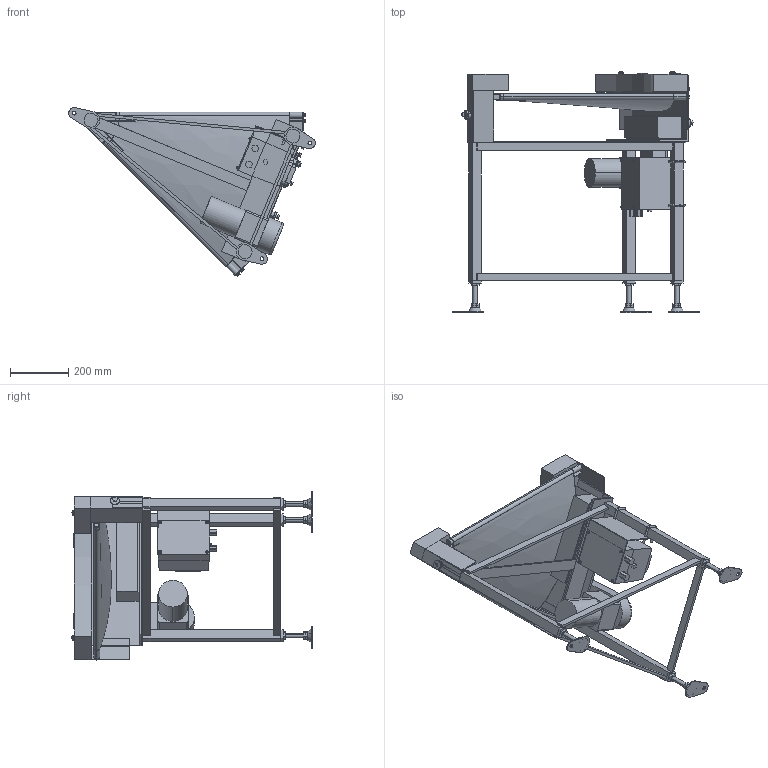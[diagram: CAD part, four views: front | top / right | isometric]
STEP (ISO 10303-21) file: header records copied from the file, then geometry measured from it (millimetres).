
FILE_DESCRIPTION (( 'STEP AP214' ), '1' );
FILE_NAME ('GFBC45-UD500-L.STEP', '2024-01-18T01:52:15', ( '' ), ( '' ), 'SwSTEP 2.0', 'SolidWorks 2017', '' );
FILE_SCHEMA (( 'AUTOMOTIVE_DESIGN' ));
Length unit declared in the file: millimetre
Products named in the file (1): GFBC45-UD500-L
Bounding box: 848.25 x 827.92 x 580.06 mm (x, y, z)
Volume: 18655115.2 mm3; surface area: 3195335.1 mm2
Topology: 54 solids, 55 shells, 1088 faces, 2549 edges, 1647 vertices
Faces by surface type: plane 700, cylinder 316, bspline 40, cone 20, torus 8, sphere 4
Entity records: 38756 total; most frequent: CARTESIAN_POINT 13043, DIRECTION 5167, ORIENTED_EDGE 5066, EDGE_CURVE 2533, AXIS2_PLACEMENT_3D 1738, LINE 1691, VECTOR 1691, VERTEX_POINT 1647
